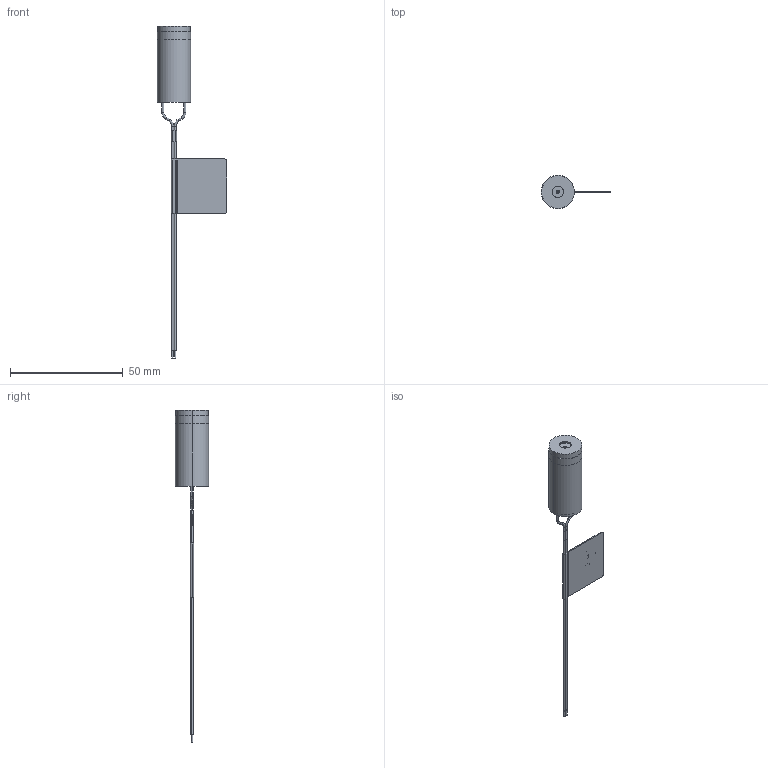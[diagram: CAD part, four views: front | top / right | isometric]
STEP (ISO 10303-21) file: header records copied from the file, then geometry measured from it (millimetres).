
FILE_DESCRIPTION (( 'STEP AP214' ), '1' );
FILE_NAME ('VLM2.3-4L VHK2-1L VHK2.3-1L.STEP', '2020-01-09T17:44:04', ( '' ), ( '' ), 'SwSTEP 2.0', 'SolidWorks 2019', '' );
FILE_SCHEMA (( 'AUTOMOTIVE_DESIGN' ));
Length unit declared in the file: inch
Products named in the file (1): VLM2.3-4L VHK2-1L VHK2.3-1L
Bounding box: 30.82 x 14.76 x 147.48 mm (x, y, z)
Surface area: 5100.9 mm2 (no closed solid volume)
Topology: 0 solids, 10 shells, 165 faces, 482 edges, 329 vertices
Faces by surface type: plane 90, cylinder 58, bspline 9, torus 8
Entity records: 8100 total; most frequent: CARTESIAN_POINT 1526, DIRECTION 923, ORIENTED_EDGE 832, EDGE_CURVE 482, VERTEX_POINT 329, AXIS2_PLACEMENT_3D 308, VECTOR 307, LINE 307
